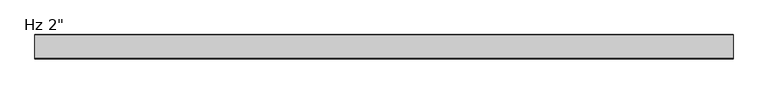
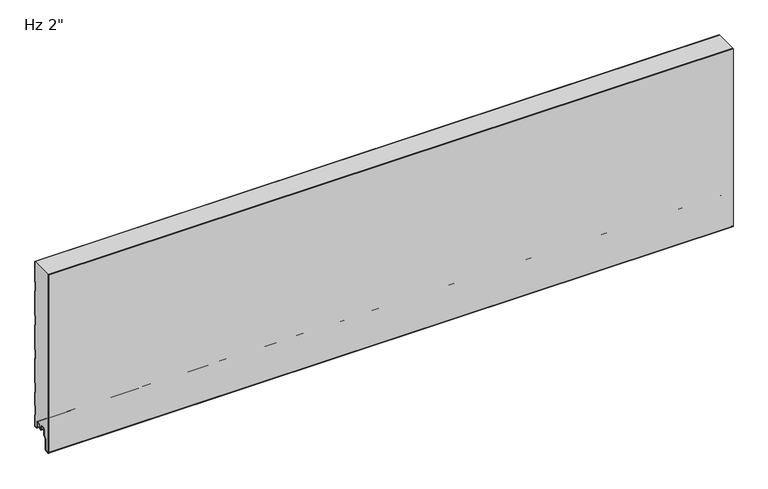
"""IFC4 building model written with IfcOpenShell, lengths in millimetres: plate geometry."""

from ifc_helpers import new_model, si_unit, point, frame, frame_2d, origin, place, context, project, spatial, polyline, circle_curve, trimmed, segment, composite_curve, outline, extrude, source, transform, mapped, element, save
from ifc_brep_helpers import plane_surface, cylinder_surface, revolved_surface, advanced_brep


def plate_b5310251(model_context):
    return source(origin(), model_context, "Body", "SolidModel", [
        extrude(outline(composite_curve([segment(trimmed(circle_curve(frame_2d((-47.2297607, -32.4521176)), 3.5702393), [point((-46.9184903, -36.008762))], [point((-50.8, -32.4521154))], False, "CARTESIAN"), True, "CONTINUOUS"), segment(polyline([(-50.8, -32.4521154), (-50.7997439, 368.0), (-49.7993606, 368.0), (-49.7993606, -32.509446)]), True, "CONTINUOUS"), segment(trimmed(circle_curve(frame_2d((-47.2297607, -32.4521176)), 2.5702393), [point((-49.7993606, -32.509446))], [point((-47.0056751, -35.0125699))], True, "CARTESIAN"), True, "CONTINUOUS"), segment(polyline([(-47.0056751, -35.0125699), (-42.0238542, -34.5765709)]), True, "CONTINUOUS"), segment(trimmed(circle_curve(frame_2d((-42.5052448, -31.9198392)), 2.6999926), [point((-42.0238542, -34.5765709))], [point((-39.8052522, -31.9198392))], True, "CARTESIAN"), True, "CONTINUOUS"), segment(polyline([(-39.8052522, -31.9198392), (-39.8052522, -9.8247096), (-34.3031811, -4.3226385)]), True, "CONTINUOUS"), segment(trimmed(circle_curve(frame_2d((-35.5052588, -3.1205608)), 1.6999946), [point((-34.3031811, -4.3226385))], [point((-33.8052642, -3.1205608))], True, "CARTESIAN"), True, "CONTINUOUS"), segment(polyline([(-33.8052642, -3.1205608), (-33.8052642, 8.6903283)]), True, "CONTINUOUS"), segment(trimmed(circle_curve(frame_2d((-30.4552689, 8.6903283)), 3.3499953), [point((-33.8052642, 8.6903283))], [point((-30.4552689, 12.0403236))], False, "CARTESIAN"), True, "CONTINUOUS"), segment(polyline([(-30.4552689, 12.0403236), (-26.0552777, 12.0403236)]), True, "CONTINUOUS"), segment(trimmed(circle_curve(frame_2d((-26.0552777, 8.6903283)), 3.3499953), [point((-26.0552777, 12.0403236))], [point((-22.7052824, 8.6903283))], False, "CARTESIAN"), True, "CONTINUOUS"), segment(polyline([(-22.7052824, 8.6903283), (-22.7052824, 5.9912173), (-21.3068035, 5.9912173), (-21.3068035, 2.2328239)]), True, "CONTINUOUS"), segment(trimmed(circle_curve(frame_2d((-22.5068002, 2.2313092)), 1.1999976), [point((-21.3068035, 2.2328239))], [point((-22.4762782, 1.0316999))], False, "CARTESIAN"), True, "CONTINUOUS"), segment(trimmed(circle_curve(frame_2d((-22.5068002, 2.2313092)), 1.1999976), [point((-22.4762782, 1.0316999))], [point((-23.7052824, 2.1710221))], False, "CARTESIAN"), True, "CONTINUOUS"), segment(polyline([(-23.7052824, 2.1710221), (-23.7052824, 8.6903283)]), True, "CONTINUOUS"), segment(trimmed(circle_curve(frame_2d((-26.0552777, 8.6903283)), 2.3499953), [point((-23.7052824, 8.6903283))], [point((-26.0552777, 11.0403236))], True, "CARTESIAN"), True, "CONTINUOUS"), segment(polyline([(-26.0552777, 11.0403236), (-30.4552689, 11.0403236)]), True, "CONTINUOUS"), segment(trimmed(circle_curve(frame_2d((-30.4552689, 8.6903283)), 2.3499953), [point((-30.4552689, 11.0403236))], [point((-32.8052642, 8.6903283))], True, "CARTESIAN"), True, "CONTINUOUS"), segment(polyline([(-32.8052642, 8.6903283), (-32.8052642, -3.1205608)]), True, "CONTINUOUS"), segment(trimmed(circle_curve(frame_2d((-35.5052588, -3.1205608)), 2.6999946), [point((-32.8052642, -3.1205608))], [point((-33.5960743, -5.0297453))], False, "CARTESIAN"), True, "CONTINUOUS"), segment(polyline([(-33.5960743, -5.0297453), (-38.4244918, -9.8581627)]), True, "CONTINUOUS"), segment(trimmed(circle_curve(frame_2d((-37.5052548, -10.7773997)), 1.2999974), [point((-38.4244918, -9.8581627))], [point((-38.8052522, -10.7773997))], True, "CARTESIAN"), True, "CONTINUOUS"), segment(polyline([(-38.8052522, -10.7773997), (-38.8052522, -31.9198392)]), True, "CONTINUOUS"), segment(trimmed(circle_curve(frame_2d((-42.5052448, -31.9198392)), 3.6999926), [point((-38.8052522, -31.9198392))], [point((-41.8944437, -35.5690675))], False, "CARTESIAN"), True, "CONTINUOUS"), segment(polyline([(-41.8944437, -35.5690675), (-46.9184903, -36.008762)]), True, "CONTINUOUS")], self_intersect=False)), frame((-730.0, 0.0, 0.0), z_axis=(1.0, 0.0, 0.0), x_axis=(0.0, 1.0, 0.0)), (0.0, 0.0, 1.0), 1460.0),
        advanced_brep(
        [(-730.0, -22.470875, 1.0316999), (-730.0, -21.3014003, 2.2328239), (-730.0, -21.3014003, 5.9912173), (-730.0, -22.6998791, 5.9912173), (-730.0, -22.6998791, 8.6903283), (-730.0, -26.0498744, 12.0403236), (-730.0, -30.4498656, 12.0403236), (-730.0, -33.7998609, 8.6903283), (-730.0, -33.7998609, -3.1205608), (-730.0, -34.2977778, -4.3226385), (-730.0, -39.7998489, -9.8247096), (-730.0, -39.7998489, -31.9198392), (-730.0, -42.0184509, -34.5765709), (-730.0, -47.0002718, -35.0125699), (-730.0, -49.7945967, -32.4521176), (-730.0, -49.8, 368.0), (-730.0, -1.0063443, 368.0), (-730.0, -1.0063443, 322.5798583), (-730.0, -2.206575, 321.1942253), (-730.0, -2.206575, 301.819059), (-730.0, -1.0063443, 300.4334261), (-730.0, -1.0063443, 246.3800107), (-730.0, -2.206575, 244.9943777), (-730.0, -2.206575, 225.6192114), (-730.0, -1.0063443, 224.2335785), (-730.0, -1.0063443, 170.1801631), (-730.0, -2.206575, 168.7945301), (-730.0, -2.206575, 149.4193638), (-730.0, -1.0063443, 148.0337309), (-730.0, -1.0063443, 93.9803155), (-730.0, -2.206575, 92.5946825), (-730.0, -2.206575, 73.2195162), (-730.0, -1.0063443, 71.8338833), (-730.0, -1.0063443, 43.1804679), (-730.0, -2.206575, 41.7948349), (-730.0, -2.206575, 22.4196686), (-730.0, -1.0063359, 21.034026), (-730.0, -1.0063359, -3.4662506), (-730.0, -5.2378832, -3.4662506), (-730.0, -7.0078774, -1.6962564), (-730.0, -7.0078774, 8.7237222), (-730.0, -10.3078733, 12.023718), (-730.0, -14.7078645, 12.023718), (-730.0, -18.0078602, 8.7237223), (-730.0, -18.0078602, 6.0315125), (-730.0, -19.0078547, 6.0315125), (-730.0, -19.0078547, 2.0313089), (-730.0, -18.0078635, 1.0313117), (-730.0, -19.0391752, 0.0), (-730.0, -21.4391751, 0.0), (730.0, -22.470875, 1.0316999), (730.0, -21.4391751, 0.0), (730.0, -19.0391752, 0.0), (730.0, -18.0078635, 1.0313117), (730.0, -19.0078547, 2.0313089), (730.0, -19.0078547, 6.0315125), (730.0, -18.0078602, 6.0315125), (730.0, -18.0078602, 8.7237223), (730.0, -14.7078645, 12.023718), (730.0, -10.3078733, 12.023718), (730.0, -7.0078774, 8.7237222), (730.0, -7.0078774, -1.6962564), (730.0, -5.2378832, -3.4662506), (730.0, -1.0063359, -3.4662506), (730.0, -1.0063359, 21.034026), (730.0, -2.206575, 22.4196686), (730.0, -2.206575, 41.7948349), (730.0, -1.0063443, 43.1804679), (730.0, -1.0063443, 71.8338833), (730.0, -2.206575, 73.2195162), (730.0, -2.206575, 92.5946825), (730.0, -1.0063443, 93.9803155), (730.0, -1.0063443, 148.0337309), (730.0, -2.206575, 149.4193638), (730.0, -2.206575, 168.7945301), (730.0, -1.0063443, 170.1801631), (730.0, -1.0063443, 224.2335785), (730.0, -2.206575, 225.6192114), (730.0, -2.206575, 244.9943777), (730.0, -1.0063443, 246.3800107), (730.0, -1.0063443, 300.4334261), (730.0, -2.206575, 301.819059), (730.0, -2.206575, 321.1942253), (730.0, -1.0063443, 322.5798583), (730.0, -1.0063443, 368.0), (730.0, -49.8, 368.0), (730.0, -49.8, -32.4521176), (730.0, -47.0002718, -35.0125699), (730.0, -42.0184509, -34.5765709), (730.0, -39.7998489, -31.9198392), (730.0, -39.7998489, -9.8247096), (730.0, -34.2977778, -4.3226385), (730.0, -33.7998609, -3.1205608), (730.0, -33.7998609, 8.6903283), (730.0, -30.4498656, 12.0403236), (730.0, -26.0498744, 12.0403236), (730.0, -22.6998791, 8.6903283), (730.0, -22.6998791, 5.9912173), (730.0, -21.3014003, 5.9912173), (730.0, -21.3014003, 2.2328239)],
        [
            (0, 1, circle_curve(frame((-730.0, -22.5013969, 2.2313092), z_axis=(1.0, 0.0, 0.0), x_axis=(0.0, 0.0, -1.0)), 1.1999976)),
            (1, 2),
            (2, 3),
            (3, 4),
            (4, 5, circle_curve(frame((-730.0, -26.0498744, 8.6903283), z_axis=(1.0, 0.0, 0.0), x_axis=(0.0, 0.0, -1.0)), 3.3499953)),
            (5, 6),
            (6, 7, circle_curve(frame((-730.0, -30.4498656, 8.6903283), z_axis=(1.0, 0.0, 0.0), x_axis=(0.0, 0.0, -1.0)), 3.3499953)),
            (7, 8),
            (8, 9, circle_curve(frame((-730.0, -35.4998555, -3.1205608), z_axis=(-1.0, 0.0, 0.0), x_axis=(0.0, 0.0, -1.0)), 1.6999946)),
            (9, 10),
            (10, 11),
            (11, 12, circle_curve(frame((-730.0, -42.4998415, -31.9198392), z_axis=(-1.0, 0.0, 0.0), x_axis=(0.0, 0.0, -1.0)), 2.6999926)),
            (12, 13),
            (13, 14, circle_curve(frame((-730.0, -47.2243575, -32.4521176), z_axis=(-1.0, 0.0, 0.0), x_axis=(0.0, 0.0, -1.0)), 2.5702393)),
            (14, 15),
            (15, 16),
            (16, 17),
            (17, 18),
            (18, 19),
            (19, 20),
            (20, 21),
            (21, 22),
            (22, 23),
            (23, 24),
            (24, 25),
            (25, 26),
            (26, 27),
            (27, 28),
            (28, 29),
            (29, 30),
            (30, 31),
            (31, 32),
            (32, 33),
            (33, 34),
            (34, 35),
            (35, 36),
            (36, 37),
            (37, 38),
            (38, 39, circle_curve(frame((-730.0, -5.2378832, -1.6962564), z_axis=(-1.0, 0.0, 0.0), x_axis=(0.0, 0.0, -1.0)), 1.7699942)),
            (39, 40),
            (40, 41, circle_curve(frame((-730.0, -10.3078733, 8.7237222), z_axis=(1.0, 0.0, 0.0), x_axis=(0.0, 0.0, -1.0)), 3.2999959)),
            (41, 42),
            (42, 43, circle_curve(frame((-730.0, -14.7078645, 8.7237223), z_axis=(1.0, 0.0, 0.0), x_axis=(0.0, 0.0, -1.0)), 3.2999957)),
            (43, 44),
            (44, 45),
            (45, 46),
            (46, 47, circle_curve(frame((-730.0, -18.0078576, 2.0313089), z_axis=(1.0, 0.0, 0.0), x_axis=(0.0, 0.0, -1.0)), 0.9999972)),
            (47, 48),
            (48, 49),
            (49, 0),
            (50, 51),
            (51, 52),
            (52, 53),
            (53, 54, circle_curve(frame((730.0, -18.0078576, 2.0313089), z_axis=(-1.0, 0.0, 0.0), x_axis=(0.0, 0.0, -1.0)), 0.9999972)),
            (54, 55),
            (55, 56),
            (56, 57),
            (57, 58, circle_curve(frame((730.0, -14.7078645, 8.7237223), z_axis=(-1.0, 0.0, 0.0), x_axis=(0.0, 0.0, -1.0)), 3.2999957)),
            (58, 59),
            (59, 60, circle_curve(frame((730.0, -10.3078733, 8.7237222), z_axis=(-1.0, 0.0, 0.0), x_axis=(0.0, 0.0, -1.0)), 3.2999959)),
            (60, 61),
            (61, 62, circle_curve(frame((730.0, -5.2378832, -1.6962564), z_axis=(1.0, 0.0, 0.0), x_axis=(0.0, 0.0, -1.0)), 1.7699942)),
            (62, 63),
            (63, 64),
            (64, 65),
            (65, 66),
            (66, 67),
            (67, 68),
            (68, 69),
            (69, 70),
            (70, 71),
            (71, 72),
            (72, 73),
            (73, 74),
            (74, 75),
            (75, 76),
            (76, 77),
            (77, 78),
            (78, 79),
            (79, 80),
            (80, 81),
            (81, 82),
            (82, 83),
            (83, 84),
            (84, 85),
            (85, 86),
            (86, 87, circle_curve(frame((730.0, -47.2243575, -32.4521176), z_axis=(1.0, 0.0, 0.0), x_axis=(0.0, 0.0, -1.0)), 2.5702393)),
            (87, 88),
            (88, 89, circle_curve(frame((730.0, -42.4998415, -31.9198392), z_axis=(1.0, 0.0, 0.0), x_axis=(0.0, 0.0, -1.0)), 2.6999926)),
            (89, 90),
            (90, 91),
            (91, 92, circle_curve(frame((730.0, -35.4998555, -3.1205608), z_axis=(1.0, 0.0, 0.0), x_axis=(0.0, 0.0, -1.0)), 1.6999946)),
            (92, 93),
            (93, 94, circle_curve(frame((730.0, -30.4498656, 8.6903283), z_axis=(-1.0, 0.0, 0.0), x_axis=(0.0, 0.0, -1.0)), 3.3499953)),
            (94, 95),
            (95, 96, circle_curve(frame((730.0, -26.0498744, 8.6903283), z_axis=(-1.0, 0.0, 0.0), x_axis=(0.0, 0.0, -1.0)), 3.3499953)),
            (96, 97),
            (97, 98),
            (98, 99),
            (99, 50, circle_curve(frame((730.0, -22.5013969, 2.2313092), z_axis=(-1.0, 0.0, 0.0), x_axis=(0.0, 0.0, -1.0)), 1.1999976)),
            (48, 52),
            (51, 49),
            (0, 50),
            (99, 1),
            (40, 60),
            (59, 41),
            (37, 63),
            (62, 38),
            (39, 61),
            (42, 58),
            (57, 43),
            (44, 56),
            (55, 45),
            (85, 15),
            (14, 86),
            (47, 53),
            (46, 54),
            (13, 87),
            (12, 88),
            (10, 90),
            (89, 11),
            (9, 91),
            (7, 93),
            (92, 8),
            (6, 94),
            (4, 96),
            (95, 5),
            (3, 97),
            (2, 98),
            (84, 16),
            (36, 64),
            (35, 65),
            (83, 17),
            (18, 82),
            (81, 19),
            (20, 80),
            (79, 21),
            (24, 76),
            (75, 25),
            (22, 78),
            (77, 23),
            (28, 72),
            (71, 29),
            (27, 73),
            (26, 74),
            (30, 70),
            (69, 31),
            (32, 68),
            (67, 33),
            (66, 34),
        ],
        [
            plane_surface(frame((-730.0, -49.8, 508.0), z_axis=(-1.0, 0.0, 0.0), x_axis=(0.0, -1.0, 0.0))),
            plane_surface(frame((730.0, -49.8, 508.0), z_axis=(1.0, 0.0, 0.0), x_axis=(0.0, -1.0, 0.0))),
            plane_surface(frame((-730.0, -21.4391751, 0.0), z_axis=(0.0, 0.0, -1.0), x_axis=(1.0, 0.0, 0.0))),
            revolved_surface(polyline([(730.0, -22.5013969, 1.0313116), (-730.0, -22.5013969, 1.0313116)]), (-730.0, -22.5013969, 2.2313092), (1.0, 0.0, 0.0)),
            plane_surface(frame((-730.0, -22.470875, 1.0316999), z_axis=(0.0, -0.7071067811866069, -0.7071067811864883), x_axis=(1.0, 0.0, 0.0))),
            revolved_surface(polyline([(730.0, -10.3078733, 5.423726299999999), (-730.0, -10.3078733, 5.423726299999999)]), (-730.0, -10.3078733, 8.7237222), (1.0, 0.0, 0.0)),
            plane_surface(frame((-730.0, -5.2378832, -3.4662506), z_axis=(0.0, 0.0, -1.0), x_axis=(1.0, 0.0, 0.0))),
            plane_surface(frame((-730.0, -7.0078774, 8.7237222), z_axis=(0.0, -1.0, 0.0), x_axis=(1.0, 0.0, 0.0))),
            cylinder_surface(frame((-730.0, -5.2378832, -1.6962564), z_axis=(-1.0, 0.0, 0.0), x_axis=(0.0, 0.0, -1.0)), 1.7699942),
            revolved_surface(polyline([(730.0, -14.7078645, 5.4237266), (-730.0, -14.7078645, 5.4237266)]), (-730.0, -14.7078645, 8.7237223), (1.0, 0.0, 0.0)),
            plane_surface(frame((-730.0, -14.7078645, 12.023718), z_axis=(0.0, 0.0, -1.0), x_axis=(1.0, 0.0, 0.0))),
            plane_surface(frame((-730.0, -19.0078547, 6.0315125), z_axis=(0.0, 0.0, -1.0), x_axis=(1.0, 0.0, 0.0))),
            plane_surface(frame((-730.0, -18.0078602, 6.0315125), z_axis=(0.0, 1.0, 0.0), x_axis=(1.0, 0.0, 0.0))),
            plane_surface(frame((-730.0, -49.8, 967.515622), z_axis=(0.0, -1.0, 0.0), x_axis=(1.0, 0.0, 0.0))),
            plane_surface(frame((-730.0, -19.0391752, 0.0), z_axis=(0.0, 0.7071067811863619, -0.7071067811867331), x_axis=(1.0, 0.0, 0.0))),
            revolved_surface(polyline([(730.0, -18.0078576, 1.0313116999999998), (-730.0, -18.0078576, 1.0313116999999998)]), (-730.0, -18.0078576, 2.0313089), (1.0, 0.0, 0.0)),
            plane_surface(frame((-730.0, -19.0078547, 2.0313089), z_axis=(0.0, 1.0, 0.0), x_axis=(1.0, 0.0, 0.0))),
            cylinder_surface(frame((-730.0, -47.2243575, -32.4521176), z_axis=(-1.0, 0.0, 0.0), x_axis=(0.0, 0.0, -1.0)), 2.5702393),
            plane_surface(frame((-730.0, -47.0002718, -35.0125699), z_axis=(0.0, 0.08718474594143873, -0.9961921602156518), x_axis=(1.0, 0.0, 0.0))),
            plane_surface(frame((-730.0, -39.7998489, -31.9198392), z_axis=(0.0, 1.0, 0.0), x_axis=(1.0, 0.0, 0.0))),
            cylinder_surface(frame((-730.0, -42.4998415, -31.9198392), z_axis=(-1.0, 0.0, 0.0), x_axis=(0.0, 0.0, -1.0)), 2.6999926),
            plane_surface(frame((-730.0, -39.7998489, -9.8247096), z_axis=(0.0, 0.7071067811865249, -0.7071067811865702), x_axis=(1.0, 0.0, 0.0))),
            plane_surface(frame((-730.0, -33.7998609, -3.1205608), z_axis=(0.0, 1.0, 0.0), x_axis=(1.0, 0.0, 0.0))),
            revolved_surface(polyline([(730.0, -30.4498656, 5.340332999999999), (-730.0, -30.4498656, 5.340332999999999)]), (-730.0, -30.4498656, 8.6903283), (1.0, 0.0, 0.0)),
            cylinder_surface(frame((-730.0, -35.4998555, -3.1205608), z_axis=(-1.0, 0.0, 0.0), x_axis=(0.0, 0.0, -1.0)), 1.6999946),
            revolved_surface(polyline([(730.0, -26.0498744, 5.340332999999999), (-730.0, -26.0498744, 5.340332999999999)]), (-730.0, -26.0498744, 8.6903283), (1.0, 0.0, 0.0)),
            plane_surface(frame((-730.0, -30.4498656, 12.0403236), z_axis=(0.0, 0.0, -1.0), x_axis=(1.0, 0.0, 0.0))),
            plane_surface(frame((-730.0, -22.6998791, 8.6903283), z_axis=(0.0, -1.0, 0.0), x_axis=(1.0, 0.0, 0.0))),
            plane_surface(frame((-730.0, -22.6998791, 5.9912173), z_axis=(0.0, 0.0, -1.0), x_axis=(1.0, 0.0, 0.0))),
            plane_surface(frame((-730.0, -21.3014003, 5.9912173), z_axis=(0.0, -1.0, 0.0), x_axis=(1.0, 0.0, 0.0))),
            plane_surface(frame((730.0, 10.0, 368.0), z_axis=(0.0, 0.0, 1.0), x_axis=(-1.0, 0.0, 0.0))),
            plane_surface(frame((-730.0, -1.0063359, -3.4662506), z_axis=(0.0, 1.0, 0.0), x_axis=(1.0, 0.0, 0.0))),
            plane_surface(frame((-730.0, -1.0063359, 21.034026), z_axis=(0.0, 0.7558648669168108, 0.6547276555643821), x_axis=(1.0, 0.0, 0.0))),
            plane_surface(frame((-730.0, -1.0063443, 322.5798583), z_axis=(0.0, 1.0, 0.0), x_axis=(1.0, 0.0, 0.0))),
            plane_surface(frame((-730.0, -2.206575, 301.819059), z_axis=(0.0, 1.0, 0.0), x_axis=(1.0, 0.0, 0.0))),
            plane_surface(frame((-730.0, -2.206575, 321.1942253), z_axis=(0.0, 0.7558648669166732, -0.6547276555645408), x_axis=(1.0, 0.0, 0.0))),
            plane_surface(frame((-730.0, -1.0063443, 246.3800107), z_axis=(0.0, 1.0, 0.0), x_axis=(1.0, 0.0, 0.0))),
            plane_surface(frame((-730.0, -1.0063443, 300.4334261), z_axis=(0.0, 0.7558648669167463, 0.6547276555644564), x_axis=(1.0, 0.0, 0.0))),
            plane_surface(frame((-730.0, -1.0063443, 170.1801631), z_axis=(0.0, 1.0, 0.0), x_axis=(1.0, 0.0, 0.0))),
            plane_surface(frame((-730.0, -2.206575, 225.6192114), z_axis=(0.0, 1.0, 0.0), x_axis=(1.0, 0.0, 0.0))),
            plane_surface(frame((-730.0, -2.206575, 244.9943777), z_axis=(0.0, 0.7558648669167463, -0.6547276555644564), x_axis=(1.0, 0.0, 0.0))),
            plane_surface(frame((-730.0, -1.0063443, 224.2335785), z_axis=(0.0, 0.7558648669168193, 0.6547276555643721), x_axis=(1.0, 0.0, 0.0))),
            plane_surface(frame((-730.0, -1.0063443, 93.9803155), z_axis=(0.0, 1.0, 0.0), x_axis=(1.0, 0.0, 0.0))),
            plane_surface(frame((-730.0, -1.0063443, 148.0337309), z_axis=(0.0, 0.7558648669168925, 0.6547276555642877), x_axis=(1.0, 0.0, 0.0))),
            plane_surface(frame((-730.0, -2.206575, 149.4193638), z_axis=(0.0, 1.0, 0.0), x_axis=(1.0, 0.0, 0.0))),
            plane_surface(frame((-730.0, -2.206575, 168.7945301), z_axis=(0.0, 0.7558648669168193, -0.6547276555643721), x_axis=(1.0, 0.0, 0.0))),
            plane_surface(frame((-730.0, -2.206575, 73.2195162), z_axis=(0.0, 1.0, 0.0), x_axis=(1.0, 0.0, 0.0))),
            plane_surface(frame((-730.0, -2.206575, 92.5946825), z_axis=(0.0, 0.7558648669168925, -0.6547276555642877), x_axis=(1.0, 0.0, 0.0))),
            plane_surface(frame((-730.0, -1.0063443, 43.1804679), z_axis=(0.0, 1.0, 0.0), x_axis=(1.0, 0.0, 0.0))),
            plane_surface(frame((-730.0, -1.0063443, 71.8338833), z_axis=(0.0, 0.7558648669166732, 0.6547276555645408), x_axis=(1.0, 0.0, 0.0))),
            plane_surface(frame((-730.0, -2.206575, 41.7948349), z_axis=(0.0, 0.7558648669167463, -0.6547276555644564), x_axis=(1.0, 0.0, 0.0))),
            plane_surface(frame((-730.0, -2.206575, 22.4196686), z_axis=(0.0, 1.0, 0.0), x_axis=(1.0, 0.0, 0.0))),
        ],
        [
            (0, [[1, 2, 3, 4, 5, 6, 7, 8, 9, 10, 11, 12, 13, 14, 15, 16, 17, 18, 19, 20, 21, 22, 23, 24, 25, 26, 27, 28, 29, 30, 31, 32, 33, 34, 35, 36, 37, 38, 39, 40, 41, 42, 43, 44, 45, 46, 47, 48, 49, 50]]),
            (1, [[51, 52, 53, 54, 55, 56, 57, 58, 59, 60, 61, 62, 63, 64, 65, 66, 67, 68, 69, 70, 71, 72, 73, 74, 75, 76, 77, 78, 79, 80, 81, 82, 83, 84, 85, 86, 87, 88, 89, 90, 91, 92, 93, 94, 95, 96, 97, 98, 99, 100]]),
            (2, [[101, -52, 102, -49]]),
            (3, [[103, -100, 104, -1]]),
            (4, [[-102, -51, -103, -50]]),
            (5, [[105, -60, 106, -41]]),
            (6, [[107, -63, 108, -38]]),
            (7, [[109, -61, -105, -40]]),
            (8, [[-108, -62, -109, -39]]),
            (9, [[110, -58, 111, -43]]),
            (10, [[-106, -59, -110, -42]]),
            (11, [[112, -56, 113, -45]]),
            (12, [[-111, -57, -112, -44]]),
            (13, [[-86, 114, -15, 115]]),
            (14, [[116, -53, -101, -48]]),
            (15, [[117, -54, -116, -47]]),
            (16, [[-113, -55, -117, -46]]),
            (17, [[118, -87, -115, -14]]),
            (18, [[119, -88, -118, -13]]),
            (19, [[120, -90, 121, -11]]),
            (20, [[-121, -89, -119, -12]]),
            (21, [[122, -91, -120, -10]]),
            (22, [[123, -93, 124, -8]]),
            (23, [[125, -94, -123, -7]]),
            (24, [[-124, -92, -122, -9]]),
            (25, [[126, -96, 127, -5]]),
            (26, [[-127, -95, -125, -6]]),
            (27, [[128, -97, -126, -4]]),
            (28, [[129, -98, -128, -3]]),
            (29, [[-104, -99, -129, -2]]),
            (30, [[-114, -85, 130, -16]]),
            (31, [[131, -64, -107, -37]]),
            (32, [[132, -65, -131, -36]]),
            (33, [[-17, -130, -84, 133]]),
            (34, [[134, -82, 135, -19]]),
            (35, [[-133, -83, -134, -18]]),
            (36, [[136, -80, 137, -21]]),
            (37, [[-135, -81, -136, -20]]),
            (38, [[138, -76, 139, -25]]),
            (39, [[140, -78, 141, -23]]),
            (40, [[-137, -79, -140, -22]]),
            (41, [[-141, -77, -138, -24]]),
            (42, [[142, -72, 143, -29]]),
            (43, [[144, -73, -142, -28]]),
            (44, [[145, -74, -144, -27]]),
            (45, [[-139, -75, -145, -26]]),
            (46, [[146, -70, 147, -31]]),
            (47, [[-143, -71, -146, -30]]),
            (48, [[148, -68, 149, -33]]),
            (49, [[-147, -69, -148, -32]]),
            (50, [[-149, -67, 150, -34]]),
            (51, [[-150, -66, -132, -35]]),
        ],
    ),
        advanced_brep(
        [(-730.0, -17.0015159, 2.0313088), (-730.0, -18.0015191, 1.0313115), (-730.0, -19.0015105, 2.0313088), (-730.0, -19.0015105, 6.0315124), (-730.0, -18.0015159, 6.0315124), (-730.0, -18.0015159, 8.7237222), (-730.0, -14.7015202, 12.0237179), (-730.0, -10.301529, 12.0237179), (-730.0, -7.0015335, 8.7237224), (-730.0, -7.0015335, -1.6962565), (-730.0, -5.2315393, -3.4662507), (-730.0, -0.9999916, -3.4662507), (-730.0, -0.9999916, 21.034026), (-730.0, -2.2002307, 22.4196686), (-730.0, -2.2002307, 41.7948349), (-730.0, -1.0, 43.1804678), (-730.0, -1.0, 71.8338832), (-730.0, -2.2002307, 73.2195162), (-730.0, -2.2002307, 92.5946825), (-730.0, -1.0, 93.9803154), (-730.0, -1.0, 148.0337308), (-730.0, -2.2002307, 149.4193638), (-730.0, -2.2002307, 168.7945301), (-730.0, -1.0, 170.180163), (-730.0, -1.0, 224.2335784), (-730.0, -2.2002307, 225.6192114), (-730.0, -2.2002307, 244.9943777), (-730.0, -1.0, 246.3800106), (-730.0, -1.0, 300.433426), (-730.0, -2.2002307, 301.819059), (-730.0, -2.2002307, 321.1942253), (-730.0, -1.0, 322.5798582), (-730.0, -1.0, 368.0), (-730.0, 0.0, 368.0), (-730.0, 0.0, 322.7290094), (-730.0, -0.3417885, 321.8123925), (-730.0, -1.2002307, 320.8213449), (-730.0, -1.2002307, 302.1919394), (-730.0, -0.3417885, 301.2008918), (-730.0, 0.0, 300.2842749), (-730.0, 0.0, 246.5291618), (-730.0, -0.3417885, 245.6125449), (-730.0, -1.2002307, 244.6214973), (-730.0, -1.2002307, 225.9920918), (-730.0, -0.3417885, 225.0010442), (-730.0, 0.0, 224.0844273), (-730.0, 0.0, 170.3293142), (-730.0, -0.3417885, 169.4126973), (-730.0, -1.2002307, 168.4216497), (-730.0, -1.2002307, 149.7922442), (-730.0, -0.3417885, 148.8011966), (-730.0, 0.0, 147.8845797), (-730.0, 0.0, 94.1294666), (-730.0, -0.3417885, 93.2128497), (-730.0, -1.2002307, 92.2218021), (-730.0, -1.2002307, 73.5923966), (-730.0, -0.3417885, 72.601349), (-730.0, 0.0, 71.6847321), (-730.0, 0.0, 43.329619), (-730.0, -0.3417885, 42.4130021), (-730.0, -1.2002307, 41.4219545), (-730.0, -1.2002307, 22.792549), (-730.0, -0.3417885, 21.8015014), (-730.0, 0.0, 20.8847931), (-730.0, 8.4e-06, -3.0662545), (-730.0, -1.3999878, -4.4662507), (-730.0, -5.2315393, -4.4662507), (-730.0, -8.0015335, -1.6962565), (-730.0, -8.0015335, 8.7237224), (-730.0, -10.301529, 11.0237179), (-730.0, -14.7015202, 11.0237179), (-730.0, -17.0015159, 8.7237222), (730.0, -17.0015159, 2.0313088), (730.0, -17.0015159, 8.7237222), (730.0, -14.7015202, 11.0237179), (730.0, -10.301529, 11.0237179), (730.0, -8.0015335, 8.7237224), (730.0, -8.0015335, -1.6962565), (730.0, -5.2315393, -4.4662507), (730.0, -1.3999878, -4.4662507), (730.0, 8.4e-06, -3.0662545), (730.0, 8.4e-06, 20.8848845), (730.0, -0.3417885, 21.8015014), (730.0, -1.2002307, 22.792549), (730.0, -1.2002307, 41.4219545), (730.0, -0.3417885, 42.4130021), (730.0, 0.0, 43.329619), (730.0, 0.0, 71.6847321), (730.0, -0.3417885, 72.601349), (730.0, -1.2002307, 73.5923966), (730.0, -1.2002307, 92.2218021), (730.0, -0.3417885, 93.2128497), (730.0, 0.0, 94.1294666), (730.0, 0.0, 147.8845797), (730.0, -0.3417885, 148.8011966), (730.0, -1.2002307, 149.7922442), (730.0, -1.2002307, 168.4216497), (730.0, -0.3417885, 169.4126973), (730.0, 0.0, 170.3293142), (730.0, 0.0, 224.0844273), (730.0, -0.3417885, 225.0010442), (730.0, -1.2002307, 225.9920918), (730.0, -1.2002307, 244.6214973), (730.0, -0.3417885, 245.6125449), (730.0, 0.0, 246.5291618), (730.0, 0.0, 300.2842749), (730.0, -0.3417885, 301.2008918), (730.0, -1.2002307, 302.1919394), (730.0, -1.2002307, 320.8213449), (730.0, -0.3417885, 321.8123925), (730.0, 0.0, 322.7290094), (730.0, 0.0, 368.0), (730.0, -1.0, 368.0), (730.0, -1.0, 322.5798582), (730.0, -2.2002307, 321.1942253), (730.0, -2.2002307, 301.819059), (730.0, -1.0, 300.433426), (730.0, -1.0, 246.3800106), (730.0, -2.2002307, 244.9943777), (730.0, -2.2002307, 225.6192114), (730.0, -1.0, 224.2335784), (730.0, -1.0, 170.180163), (730.0, -2.2002307, 168.7945301), (730.0, -2.2002307, 149.4193638), (730.0, -1.0, 148.0337308), (730.0, -1.0, 93.9803154), (730.0, -2.2002307, 92.5946825), (730.0, -2.2002307, 73.2195162), (730.0, -1.0, 71.8338832), (730.0, -1.0, 43.1804678), (730.0, -2.2002307, 41.7948349), (730.0, -2.2002307, 22.4196686), (730.0, -0.9999916, 21.034026), (730.0, -0.9999916, -3.4662507), (730.0, -5.2315393, -3.4662507), (730.0, -7.0015335, -1.6962565), (730.0, -7.0015335, 8.7237224), (730.0, -10.301529, 12.0237179), (730.0, -14.7015202, 12.0237179), (730.0, -18.0015159, 8.7237222), (730.0, -18.0015159, 6.0315124), (730.0, -19.0015105, 6.0315124), (730.0, -19.0015105, 2.0313088), (730.0, -18.0015192, 1.0313116)],
        [
            (0, 1, circle_curve(frame((-730.0, -18.0015132, 2.0313088), z_axis=(-1.0, 0.0, 0.0), x_axis=(0.0, 0.0, 1.0)), 0.9999973)),
            (1, 2, circle_curve(frame((-730.0, -18.0015133, 2.0313088), z_axis=(-1.0, 0.0, 0.0), x_axis=(0.0, 0.0, 1.0)), 0.9999972)),
            (2, 3),
            (3, 4),
            (4, 5),
            (5, 6, circle_curve(frame((-730.0, -14.7015202, 8.7237222), z_axis=(-1.0, 0.0, 0.0), x_axis=(0.0, 0.0, 1.0)), 3.2999957)),
            (6, 7),
            (7, 8, circle_curve(frame((-730.0, -10.301529, 8.7237224), z_axis=(-1.0, 0.0, 0.0), x_axis=(0.0, 0.0, 1.0)), 3.2999955)),
            (8, 9),
            (9, 10, circle_curve(frame((-730.0, -5.2315393, -1.6962565), z_axis=(1.0, 0.0, 0.0), x_axis=(0.0, 0.0, 1.0)), 1.7699942)),
            (10, 11),
            (11, 12),
            (12, 13),
            (13, 14),
            (14, 15),
            (15, 16),
            (16, 17),
            (17, 18),
            (18, 19),
            (19, 20),
            (20, 21),
            (21, 22),
            (22, 23),
            (23, 24),
            (24, 25),
            (25, 26),
            (26, 27),
            (27, 28),
            (28, 29),
            (29, 30),
            (30, 31),
            (31, 32),
            (32, 33),
            (33, 34),
            (34, 35, circle_curve(frame((-730.0, -1.3999972, 322.7290094), z_axis=(-1.0, 0.0, 0.0), x_axis=(0.0, 0.0, 1.0)), 1.3999972)),
            (35, 36),
            (36, 37),
            (37, 38),
            (38, 39, circle_curve(frame((-730.0, -1.3999972, 300.2842749), z_axis=(-1.0, 0.0, 0.0), x_axis=(0.0, 0.0, 1.0)), 1.3999972)),
            (39, 40),
            (40, 41, circle_curve(frame((-730.0, -1.3999972, 246.5291618), z_axis=(-1.0, 0.0, 0.0), x_axis=(0.0, 0.0, 1.0)), 1.3999972)),
            (41, 42),
            (42, 43),
            (43, 44),
            (44, 45, circle_curve(frame((-730.0, -1.3999972, 224.0844273), z_axis=(-1.0, 0.0, 0.0), x_axis=(0.0, 0.0, 1.0)), 1.3999972)),
            (45, 46),
            (46, 47, circle_curve(frame((-730.0, -1.3999972, 170.3293142), z_axis=(-1.0, 0.0, 0.0), x_axis=(0.0, 0.0, 1.0)), 1.3999972)),
            (47, 48),
            (48, 49),
            (49, 50),
            (50, 51, circle_curve(frame((-730.0, -1.3999972, 147.8845797), z_axis=(-1.0, 0.0, 0.0), x_axis=(0.0, 0.0, 1.0)), 1.3999972)),
            (51, 52),
            (52, 53, circle_curve(frame((-730.0, -1.3999972, 94.1294666), z_axis=(-1.0, 0.0, 0.0), x_axis=(0.0, 0.0, 1.0)), 1.3999972)),
            (53, 54),
            (54, 55),
            (55, 56),
            (56, 57, circle_curve(frame((-730.0, -1.3999972, 71.6847321), z_axis=(-1.0, 0.0, 0.0), x_axis=(0.0, 0.0, 1.0)), 1.3999972)),
            (57, 58),
            (58, 59, circle_curve(frame((-730.0, -1.3999972, 43.329619), z_axis=(-1.0, 0.0, 0.0), x_axis=(0.0, 0.0, 1.0)), 1.3999972)),
            (59, 60),
            (60, 61),
            (61, 62),
            (62, 63, circle_curve(frame((-730.0, -1.3999972, 20.8848845), z_axis=(-1.0, 0.0, 0.0), x_axis=(0.0, 0.0, 1.0)), 1.3999972)),
            (63, 64),
            (64, 65, circle_curve(frame((-730.0, -1.3999878, -3.0662545), z_axis=(-1.0, 0.0, 0.0), x_axis=(0.0, 0.0, 1.0)), 1.3999962)),
            (65, 66),
            (66, 67, circle_curve(frame((-730.0, -5.2315393, -1.6962565), z_axis=(-1.0, 0.0, 0.0), x_axis=(0.0, 0.0, 1.0)), 2.7699942)),
            (67, 68),
            (68, 69, circle_curve(frame((-730.0, -10.301529, 8.7237224), z_axis=(1.0, 0.0, 0.0), x_axis=(0.0, 0.0, 1.0)), 2.2999955)),
            (69, 70),
            (70, 71, circle_curve(frame((-730.0, -14.7015202, 8.7237222), z_axis=(1.0, 0.0, 0.0), x_axis=(0.0, 0.0, 1.0)), 2.2999957)),
            (71, 0),
            (72, 73),
            (73, 74, circle_curve(frame((730.0, -14.7015202, 8.7237222), z_axis=(-1.0, 0.0, 0.0), x_axis=(0.0, 0.0, 1.0)), 2.2999957)),
            (74, 75),
            (75, 76, circle_curve(frame((730.0, -10.301529, 8.7237224), z_axis=(-1.0, 0.0, 0.0), x_axis=(0.0, 0.0, 1.0)), 2.2999955)),
            (76, 77),
            (77, 78, circle_curve(frame((730.0, -5.2315393, -1.6962565), z_axis=(1.0, 0.0, 0.0), x_axis=(0.0, 0.0, 1.0)), 2.7699942)),
            (78, 79),
            (79, 80, circle_curve(frame((730.0, -1.3999878, -3.0662545), z_axis=(1.0, 0.0, 0.0), x_axis=(0.0, 0.0, 1.0)), 1.3999962)),
            (80, 81),
            (81, 82, circle_curve(frame((730.0, -1.3999972, 20.8848845), z_axis=(1.0, 0.0, 0.0), x_axis=(0.0, 0.0, 1.0)), 1.3999972)),
            (82, 83),
            (83, 84),
            (84, 85),
            (85, 86, circle_curve(frame((730.0, -1.3999972, 43.329619), z_axis=(1.0, 0.0, 0.0), x_axis=(0.0, 0.0, 1.0)), 1.3999972)),
            (86, 87),
            (87, 88, circle_curve(frame((730.0, -1.3999972, 71.6847321), z_axis=(1.0, 0.0, 0.0), x_axis=(0.0, 0.0, 1.0)), 1.3999972)),
            (88, 89),
            (89, 90),
            (90, 91),
            (91, 92, circle_curve(frame((730.0, -1.3999972, 94.1294666), z_axis=(1.0, 0.0, 0.0), x_axis=(0.0, 0.0, 1.0)), 1.3999972)),
            (92, 93),
            (93, 94, circle_curve(frame((730.0, -1.3999972, 147.8845797), z_axis=(1.0, 0.0, 0.0), x_axis=(0.0, 0.0, 1.0)), 1.3999972)),
            (94, 95),
            (95, 96),
            (96, 97),
            (97, 98, circle_curve(frame((730.0, -1.3999972, 170.3293142), z_axis=(1.0, 0.0, 0.0), x_axis=(0.0, 0.0, 1.0)), 1.3999972)),
            (98, 99),
            (99, 100, circle_curve(frame((730.0, -1.3999972, 224.0844273), z_axis=(1.0, 0.0, 0.0), x_axis=(0.0, 0.0, 1.0)), 1.3999972)),
            (100, 101),
            (101, 102),
            (102, 103),
            (103, 104, circle_curve(frame((730.0, -1.3999972, 246.5291618), z_axis=(1.0, 0.0, 0.0), x_axis=(0.0, 0.0, 1.0)), 1.3999972)),
            (104, 105),
            (105, 106, circle_curve(frame((730.0, -1.3999972, 300.2842749), z_axis=(1.0, 0.0, 0.0), x_axis=(0.0, 0.0, 1.0)), 1.3999972)),
            (106, 107),
            (107, 108),
            (108, 109),
            (109, 110, circle_curve(frame((730.0, -1.3999972, 322.7290094), z_axis=(1.0, 0.0, 0.0), x_axis=(0.0, 0.0, 1.0)), 1.3999972)),
            (110, 111),
            (111, 112),
            (112, 113),
            (113, 114),
            (114, 115),
            (115, 116),
            (116, 117),
            (117, 118),
            (118, 119),
            (119, 120),
            (120, 121),
            (121, 122),
            (122, 123),
            (123, 124),
            (124, 125),
            (125, 126),
            (126, 127),
            (127, 128),
            (128, 129),
            (129, 130),
            (130, 131),
            (131, 132),
            (132, 133),
            (133, 134),
            (134, 135, circle_curve(frame((730.0, -5.2315393, -1.6962565), z_axis=(-1.0, 0.0, 0.0), x_axis=(0.0, 0.0, 1.0)), 1.7699942)),
            (135, 136),
            (136, 137, circle_curve(frame((730.0, -10.301529, 8.7237224), z_axis=(1.0, 0.0, 0.0), x_axis=(0.0, 0.0, 1.0)), 3.2999955)),
            (137, 138),
            (138, 139, circle_curve(frame((730.0, -14.7015202, 8.7237222), z_axis=(1.0, 0.0, 0.0), x_axis=(0.0, 0.0, 1.0)), 3.2999957)),
            (139, 140),
            (140, 141),
            (141, 142),
            (142, 143, circle_curve(frame((730.0, -18.0015133, 2.0313088), z_axis=(1.0, 0.0, 0.0), x_axis=(0.0, 0.0, 1.0)), 0.9999972)),
            (143, 72, circle_curve(frame((730.0, -18.0015132, 2.0313088), z_axis=(1.0, 0.0, 0.0), x_axis=(0.0, 0.0, 1.0)), 0.9999973)),
            (32, 112),
            (111, 33),
            (67, 77),
            (76, 68),
            (0, 72),
            (143, 1),
            (71, 73),
            (70, 74),
            (75, 69),
            (65, 79),
            (78, 66),
            (64, 80),
            (63, 81),
            (2, 142),
            (141, 3),
            (56, 88),
            (87, 57),
            (61, 83),
            (82, 62),
            (60, 84),
            (58, 86),
            (85, 59),
            (50, 94),
            (93, 51),
            (54, 90),
            (89, 55),
            (52, 92),
            (91, 53),
            (44, 100),
            (99, 45),
            (48, 96),
            (95, 49),
            (46, 98),
            (97, 47),
            (38, 106),
            (105, 39),
            (42, 102),
            (101, 43),
            (40, 104),
            (103, 41),
            (36, 108),
            (107, 37),
            (34, 110),
            (109, 35),
            (27, 117),
            (116, 28),
            (115, 29),
            (114, 30),
            (113, 31),
            (26, 118),
            (25, 119),
            (24, 120),
            (23, 121),
            (22, 122),
            (21, 123),
            (20, 124),
            (19, 125),
            (18, 126),
            (17, 127),
            (16, 128),
            (15, 129),
            (14, 130),
            (140, 4),
            (139, 5),
            (138, 6),
            (137, 7),
            (136, 8),
            (135, 9),
            (12, 132),
            (131, 13),
            (11, 133),
            (10, 134),
        ],
        [
            plane_surface(frame((-730.0, 0.0, 508.0), z_axis=(-1.0, 0.0, 0.0), x_axis=(0.0, 1.0, 0.0))),
            plane_surface(frame((730.0, 0.0, 508.0), z_axis=(1.0, 0.0, 0.0), x_axis=(0.0, 1.0, 0.0))),
            plane_surface(frame((730.0, 10.0, 368.0), z_axis=(0.0, 0.0, 1.0), x_axis=(-1.0, 0.0, 0.0))),
            plane_surface(frame((-730.0, -8.0015335, 8.7237224), z_axis=(0.0, -1.0, 0.0), x_axis=(1.0, 0.0, 0.0))),
            cylinder_surface(frame((-730.0, -18.0015132, 2.0313088), z_axis=(-1.0, 0.0, 0.0), x_axis=(0.0, 0.0, 1.0)), 0.9999973),
            plane_surface(frame((-730.0, -17.0015159, 2.0313088), z_axis=(0.0, 1.0, 0.0), x_axis=(1.0, 0.0, 0.0))),
            revolved_surface(polyline([(730.0, -14.7015202, 11.0237179), (-730.0, -14.7015202, 11.0237179)]), (-730.0, -14.7015202, 8.7237222), (1.0, 0.0, 0.0)),
            revolved_surface(polyline([(730.0, -10.301529, 11.0237179), (-730.0, -10.301529, 11.0237179)]), (-730.0, -10.301529, 8.7237224), (1.0, 0.0, 0.0)),
            plane_surface(frame((-730.0, -14.7015202, 11.0237179), z_axis=(0.0, 0.0, -1.0), x_axis=(1.0, 0.0, 0.0))),
            plane_surface(frame((-730.0, -5.2315393, -4.4662507), z_axis=(0.0, 0.0, -1.0), x_axis=(1.0, 0.0, 0.0))),
            cylinder_surface(frame((-730.0, -1.3999878, -3.0662545), z_axis=(-1.0, 0.0, 0.0), x_axis=(0.0, 0.0, 1.0)), 1.3999962),
            cylinder_surface(frame((-730.0, -5.2315393, -1.6962565), z_axis=(-1.0, 0.0, 0.0), x_axis=(0.0, 0.0, 1.0)), 2.7699942),
            plane_surface(frame((-730.0, 8.4e-06, -3.0662545), z_axis=(0.0, 1.0, 0.0), x_axis=(1.0, 0.0, 0.0))),
            plane_surface(frame((-730.0, -19.0015105, 6.0315124), z_axis=(0.0, -1.0, 0.0), x_axis=(1.0, 0.0, 0.0))),
            cylinder_surface(frame((-730.0, -18.0015133, 2.0313088), z_axis=(-1.0, 0.0, 0.0), x_axis=(0.0, 0.0, 1.0)), 0.9999972),
            cylinder_surface(frame((-730.0, -1.3999972, 71.6847321), z_axis=(-1.0, 0.0, 0.0), x_axis=(0.0, 0.0, 1.0)), 1.3999972),
            plane_surface(frame((-730.0, -0.3417885, 21.8015014), z_axis=(0.0, 0.755864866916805, 0.6547276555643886), x_axis=(1.0, 0.0, 0.0))),
            plane_surface(frame((-730.0, -1.2002307, 32.1072517), z_axis=(0.0, 1.0, 0.0), x_axis=(1.0, 0.0, 0.0))),
            cylinder_surface(frame((-730.0, -1.3999972, 20.8848845), z_axis=(-1.0, 0.0, 0.0), x_axis=(0.0, 0.0, 1.0)), 1.3999972),
            cylinder_surface(frame((-730.0, -1.3999972, 43.329619), z_axis=(-1.0, 0.0, 0.0), x_axis=(0.0, 0.0, 1.0)), 1.3999972),
            plane_surface(frame((-730.0, -1.2002307, 41.4219545), z_axis=(0.0, 0.755864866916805, -0.6547276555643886), x_axis=(1.0, 0.0, 0.0))),
            cylinder_surface(frame((-730.0, -1.3999972, 147.8845797), z_axis=(-1.0, 0.0, 0.0), x_axis=(0.0, 0.0, 1.0)), 1.3999972),
            plane_surface(frame((-730.0, -1.2002307, 82.9070993), z_axis=(0.0, 1.0, 0.0), x_axis=(1.0, 0.0, 0.0))),
            cylinder_surface(frame((-730.0, -1.3999972, 94.1294666), z_axis=(-1.0, 0.0, 0.0), x_axis=(0.0, 0.0, 1.0)), 1.3999972),
            plane_surface(frame((-730.0, -0.3417885, 72.601349), z_axis=(0.0, 0.755864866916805, 0.6547276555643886), x_axis=(1.0, 0.0, 0.0))),
            plane_surface(frame((-730.0, -1.2002307, 92.2218021), z_axis=(0.0, 0.755864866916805, -0.6547276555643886), x_axis=(1.0, 0.0, 0.0))),
            plane_surface(frame((-730.0, 0.0, 43.329619), z_axis=(0.0, 1.0, 0.0), x_axis=(1.0, 0.0, 0.0))),
            cylinder_surface(frame((-730.0, -1.3999972, 224.0844273), z_axis=(-1.0, 0.0, 0.0), x_axis=(0.0, 0.0, 1.0)), 1.3999972),
            plane_surface(frame((-730.0, -1.2002307, 159.1069469), z_axis=(0.0, 1.0, 0.0), x_axis=(1.0, 0.0, 0.0))),
            cylinder_surface(frame((-730.0, -1.3999972, 170.3293142), z_axis=(-1.0, 0.0, 0.0), x_axis=(0.0, 0.0, 1.0)), 1.3999972),
            plane_surface(frame((-730.0, -0.3417885, 148.8011966), z_axis=(0.0, 0.755864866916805, 0.6547276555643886), x_axis=(1.0, 0.0, 0.0))),
            plane_surface(frame((-730.0, -1.2002307, 168.4216497), z_axis=(0.0, 0.755864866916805, -0.6547276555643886), x_axis=(1.0, 0.0, 0.0))),
            plane_surface(frame((-730.0, 0.0, 94.1294666), z_axis=(0.0, 1.0, 0.0), x_axis=(1.0, 0.0, 0.0))),
            cylinder_surface(frame((-730.0, -1.3999972, 300.2842749), z_axis=(-1.0, 0.0, 0.0), x_axis=(0.0, 0.0, 1.0)), 1.3999972),
            plane_surface(frame((-730.0, -1.2002307, 235.3067945), z_axis=(0.0, 1.0, 0.0), x_axis=(1.0, 0.0, 0.0))),
            cylinder_surface(frame((-730.0, -1.3999972, 246.5291618), z_axis=(-1.0, 0.0, 0.0), x_axis=(0.0, 0.0, 1.0)), 1.3999972),
            plane_surface(frame((-730.0, -0.3417885, 225.0010442), z_axis=(0.0, 0.755864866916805, 0.6547276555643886), x_axis=(1.0, 0.0, 0.0))),
            plane_surface(frame((-730.0, -1.2002307, 244.6214973), z_axis=(0.0, 0.755864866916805, -0.6547276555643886), x_axis=(1.0, 0.0, 0.0))),
            plane_surface(frame((-730.0, 0.0, 170.3293142), z_axis=(0.0, 1.0, 0.0), x_axis=(1.0, 0.0, 0.0))),
            plane_surface(frame((-730.0, -1.2002307, 311.5066421), z_axis=(0.0, 1.0, 0.0), x_axis=(1.0, 0.0, 0.0))),
            cylinder_surface(frame((-730.0, -1.3999972, 322.7290094), z_axis=(-1.0, 0.0, 0.0), x_axis=(0.0, 0.0, 1.0)), 1.3999972),
            plane_surface(frame((-730.0, -0.3417885, 301.2008918), z_axis=(0.0, 0.755864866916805, 0.6547276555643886), x_axis=(1.0, 0.0, 0.0))),
            plane_surface(frame((-730.0, -1.2002307, 320.8213449), z_axis=(0.0, 0.755864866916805, -0.6547276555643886), x_axis=(1.0, 0.0, 0.0))),
            plane_surface(frame((-730.0, 0.0, 246.5291618), z_axis=(0.0, 1.0, 0.0), x_axis=(1.0, 0.0, 0.0))),
            plane_surface(frame((-730.0, 0.0, 322.7290094), z_axis=(0.0, 1.0, 0.0), x_axis=(1.0, 0.0, 0.0))),
            plane_surface(frame((-730.0, -1.0, 300.433426), z_axis=(0.0, -1.0, 0.0), x_axis=(1.0, 0.0, 0.0))),
            plane_surface(frame((-730.0, -2.2002307, 301.819059), z_axis=(0.0, -0.755864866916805, -0.6547276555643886), x_axis=(1.0, 0.0, 0.0))),
            plane_surface(frame((-730.0, -2.2002307, 321.1942253), z_axis=(0.0, -1.0, 0.0), x_axis=(1.0, 0.0, 0.0))),
            plane_surface(frame((-730.0, -1.0, 322.5798582), z_axis=(0.0, -0.755864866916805, 0.6547276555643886), x_axis=(1.0, 0.0, 0.0))),
            plane_surface(frame((-730.0, -1.0, 376.6332736), z_axis=(0.0, -1.0, 0.0), x_axis=(1.0, 0.0, 0.0))),
            plane_surface(frame((-730.0, -1.0, 246.3800106), z_axis=(0.0, -0.755864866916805, 0.6547276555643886), x_axis=(1.0, 0.0, 0.0))),
            plane_surface(frame((-730.0, -2.2002307, 244.9943777), z_axis=(0.0, -1.0, 0.0), x_axis=(1.0, 0.0, 0.0))),
            plane_surface(frame((-730.0, -2.2002307, 225.6192114), z_axis=(0.0, -0.755864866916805, -0.6547276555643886), x_axis=(1.0, 0.0, 0.0))),
            plane_surface(frame((-730.0, -1.0, 224.2335784), z_axis=(0.0, -1.0, 0.0), x_axis=(1.0, 0.0, 0.0))),
            plane_surface(frame((-730.0, -1.0, 170.180163), z_axis=(0.0, -0.755864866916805, 0.6547276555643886), x_axis=(1.0, 0.0, 0.0))),
            plane_surface(frame((-730.0, -2.2002307, 168.7945301), z_axis=(0.0, -1.0, 0.0), x_axis=(1.0, 0.0, 0.0))),
            plane_surface(frame((-730.0, -2.2002307, 149.4193638), z_axis=(0.0, -0.755864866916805, -0.6547276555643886), x_axis=(1.0, 0.0, 0.0))),
            plane_surface(frame((-730.0, -1.0, 148.0337308), z_axis=(0.0, -1.0, 0.0), x_axis=(1.0, 0.0, 0.0))),
            plane_surface(frame((-730.0, -1.0, 93.9803154), z_axis=(0.0, -0.755864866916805, 0.6547276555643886), x_axis=(1.0, 0.0, 0.0))),
            plane_surface(frame((-730.0, -2.2002307, 92.5946825), z_axis=(0.0, -1.0, 0.0), x_axis=(1.0, 0.0, 0.0))),
            plane_surface(frame((-730.0, -2.2002307, 73.2195162), z_axis=(0.0, -0.755864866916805, -0.6547276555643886), x_axis=(1.0, 0.0, 0.0))),
            plane_surface(frame((-730.0, -1.0, 71.8338832), z_axis=(0.0, -1.0, 0.0), x_axis=(1.0, 0.0, 0.0))),
            plane_surface(frame((-730.0, -1.0, 43.1804678), z_axis=(0.0, -0.755864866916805, 0.6547276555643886), x_axis=(1.0, 0.0, 0.0))),
            plane_surface(frame((-730.0, -18.0015159, 6.0315124), z_axis=(0.0, 0.0, 1.0), x_axis=(1.0, 0.0, 0.0))),
            plane_surface(frame((-730.0, -18.0015159, 8.7237222), z_axis=(0.0, -1.0, 0.0), x_axis=(1.0, 0.0, 0.0))),
            cylinder_surface(frame((-730.0, -14.7015202, 8.7237222), z_axis=(-1.0, 0.0, 0.0), x_axis=(0.0, 0.0, 1.0)), 3.2999957),
            plane_surface(frame((-730.0, -10.301529, 12.0237179), z_axis=(0.0, 0.0, 1.0), x_axis=(1.0, 0.0, 0.0))),
            cylinder_surface(frame((-730.0, -10.301529, 8.7237224), z_axis=(-1.0, 0.0, 0.0), x_axis=(0.0, 0.0, 1.0)), 3.2999955),
            plane_surface(frame((-730.0, -7.0015335, -1.6962565), z_axis=(0.0, 1.0, 0.0), x_axis=(1.0, 0.0, 0.0))),
            plane_surface(frame((-730.0, -2.2002307, 22.4196686), z_axis=(0.0, -0.755864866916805, -0.6547276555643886), x_axis=(1.0, 0.0, 0.0))),
            plane_surface(frame((-730.0, -2.2002307, 41.7948349), z_axis=(0.0, -1.0, 0.0), x_axis=(1.0, 0.0, 0.0))),
            plane_surface(frame((-730.0, -0.9999916, 21.034026), z_axis=(0.0, -1.0, 0.0), x_axis=(1.0, 0.0, 0.0))),
            plane_surface(frame((-730.0, -0.9999916, -3.4662507), z_axis=(0.0, 0.0, 1.0), x_axis=(1.0, 0.0, 0.0))),
            revolved_surface(polyline([(730.0, -5.2315393, 0.0737376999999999), (-730.0, -5.2315393, 0.0737376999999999)]), (-730.0, -5.2315393, -1.6962565), (1.0, 0.0, 0.0)),
        ],
        [
            (0, [[1, 2, 3, 4, 5, 6, 7, 8, 9, 10, 11, 12, 13, 14, 15, 16, 17, 18, 19, 20, 21, 22, 23, 24, 25, 26, 27, 28, 29, 30, 31, 32, 33, 34, 35, 36, 37, 38, 39, 40, 41, 42, 43, 44, 45, 46, 47, 48, 49, 50, 51, 52, 53, 54, 55, 56, 57, 58, 59, 60, 61, 62, 63, 64, 65, 66, 67, 68, 69, 70, 71, 72]]),
            (1, [[73, 74, 75, 76, 77, 78, 79, 80, 81, 82, 83, 84, 85, 86, 87, 88, 89, 90, 91, 92, 93, 94, 95, 96, 97, 98, 99, 100, 101, 102, 103, 104, 105, 106, 107, 108, 109, 110, 111, 112, 113, 114, 115, 116, 117, 118, 119, 120, 121, 122, 123, 124, 125, 126, 127, 128, 129, 130, 131, 132, 133, 134, 135, 136, 137, 138, 139, 140, 141, 142, 143, 144]]),
            (2, [[145, -112, 146, -33]]),
            (3, [[147, -77, 148, -68]]),
            (4, [[149, -144, 150, -1]]),
            (5, [[151, -73, -149, -72]]),
            (6, [[152, -74, -151, -71]]),
            (7, [[-148, -76, 153, -69]]),
            (8, [[-153, -75, -152, -70]]),
            (9, [[154, -79, 155, -66]]),
            (10, [[156, -80, -154, -65]]),
            (11, [[-155, -78, -147, -67]]),
            (12, [[157, -81, -156, -64]]),
            (13, [[158, -142, 159, -3]]),
            (14, [[-150, -143, -158, -2]]),
            (15, [[160, -88, 161, -57]]),
            (16, [[162, -83, 163, -62]]),
            (17, [[164, -84, -162, -61]]),
            (18, [[-163, -82, -157, -63]]),
            (19, [[165, -86, 166, -59]]),
            (20, [[-166, -85, -164, -60]]),
            (21, [[167, -94, 168, -51]]),
            (22, [[169, -90, 170, -55]]),
            (23, [[171, -92, 172, -53]]),
            (24, [[-170, -89, -160, -56]]),
            (25, [[-172, -91, -169, -54]]),
            (26, [[-161, -87, -165, -58]]),
            (27, [[173, -100, 174, -45]]),
            (28, [[175, -96, 176, -49]]),
            (29, [[177, -98, 178, -47]]),
            (30, [[-176, -95, -167, -50]]),
            (31, [[-178, -97, -175, -48]]),
            (32, [[-168, -93, -171, -52]]),
            (33, [[179, -106, 180, -39]]),
            (34, [[181, -102, 182, -43]]),
            (35, [[183, -104, 184, -41]]),
            (36, [[-182, -101, -173, -44]]),
            (37, [[-184, -103, -181, -42]]),
            (38, [[-174, -99, -177, -46]]),
            (39, [[185, -108, 186, -37]]),
            (40, [[187, -110, 188, -35]]),
            (41, [[-186, -107, -179, -38]]),
            (42, [[-188, -109, -185, -36]]),
            (43, [[-180, -105, -183, -40]]),
            (44, [[-34, -146, -111, -187]]),
            (45, [[189, -117, 190, -28]]),
            (46, [[-190, -116, 191, -29]]),
            (47, [[-191, -115, 192, -30]]),
            (48, [[-192, -114, 193, -31]]),
            (49, [[-113, -145, -32, -193]]),
            (50, [[194, -118, -189, -27]]),
            (51, [[195, -119, -194, -26]]),
            (52, [[196, -120, -195, -25]]),
            (53, [[197, -121, -196, -24]]),
            (54, [[198, -122, -197, -23]]),
            (55, [[199, -123, -198, -22]]),
            (56, [[200, -124, -199, -21]]),
            (57, [[201, -125, -200, -20]]),
            (58, [[202, -126, -201, -19]]),
            (59, [[203, -127, -202, -18]]),
            (60, [[204, -128, -203, -17]]),
            (61, [[205, -129, -204, -16]]),
            (62, [[206, -130, -205, -15]]),
            (63, [[-159, -141, 207, -4]]),
            (64, [[-207, -140, 208, -5]]),
            (65, [[-208, -139, 209, -6]]),
            (66, [[-209, -138, 210, -7]]),
            (67, [[-210, -137, 211, -8]]),
            (68, [[-211, -136, 212, -9]]),
            (69, [[213, -132, 214, -13]]),
            (70, [[-214, -131, -206, -14]]),
            (71, [[215, -133, -213, -12]]),
            (72, [[216, -134, -215, -11]]),
            (73, [[-212, -135, -216, -10]]),
        ],
    ),
    ])


if __name__ == "__main__":
    model = new_model("IFC4")
    model_context = context("Model", 3, world=origin())
    ifc_project = project(units=[si_unit("LENGTHUNIT", "METRE", prefix="MILLI")], contexts=[model_context])
    site = spatial("IfcSite", under=ifc_project)
    building = spatial("IfcBuilding", under=site)
    placement = place(None, origin())
    plate_shape = plate_b5310251(model_context)
    element("IfcPlate", 1, ObjectType="KIP-40-Karrier-KP-R19-CP-Hz-FL3-8in_SL : Hz 2\"", at=placement, inside=building, context=model_context, shape_type="MappedRepresentation", body=[
        mapped(plate_shape, transform((0.0, 0.0, 0.0), x_axis=(1.0, 0.0, 0.0), y_axis=(0.0, 1.0, 0.0), z_axis=(0.0, 0.0, 1.0))),
    ])
    save(model, "model.ifc")
